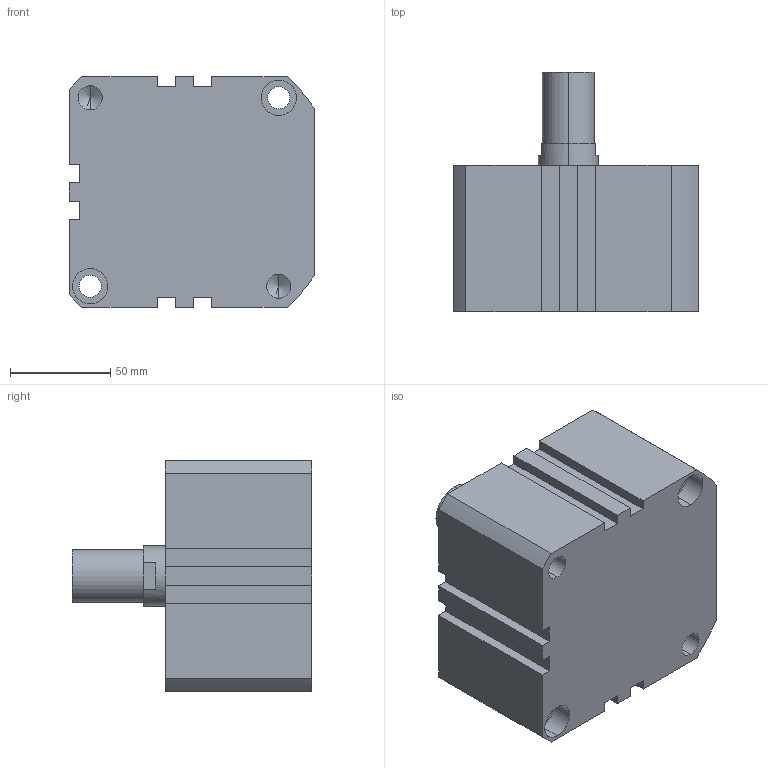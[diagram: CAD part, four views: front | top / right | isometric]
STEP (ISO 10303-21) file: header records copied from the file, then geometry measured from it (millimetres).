
FILE_DESCRIPTION (( 'STEP AP203' ), '1' );
FILE_NAME ('XG#M2-100-10.STEP', '2016-05-24T02:20:42', ( '' ), ( '' ), 'SwSTEP 2.0', 'SolidWorks 2014', '' );
FILE_SCHEMA (( 'CONFIG_CONTROL_DESIGN' ));
Length unit declared in the file: millimetre
Products named in the file (1): XG#M2-100-10
Bounding box: 122.5 x 119.5 x 115 mm (x, y, z)
Volume: 969531.5 mm3; surface area: 81443.4 mm2
Topology: 1 solids, 1 shells, 110 faces, 275 edges, 173 vertices
Faces by surface type: cylinder 47, plane 47, cone 16
Entity records: 3303 total; most frequent: DIRECTION 592, CARTESIAN_POINT 547, ORIENTED_EDGE 526, EDGE_CURVE 263, AXIS2_PLACEMENT_3D 218, VERTEX_POINT 173, LINE 156, VECTOR 156
